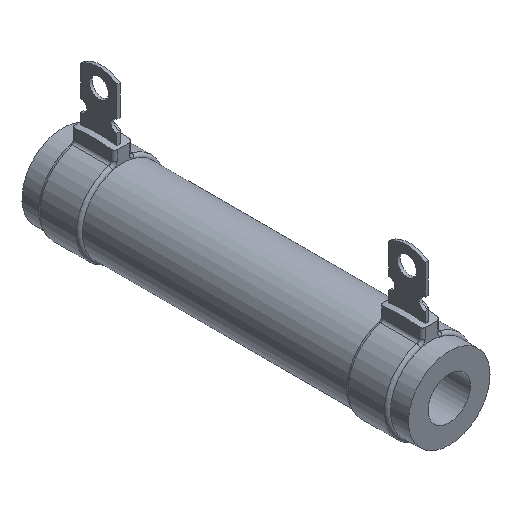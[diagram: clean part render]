
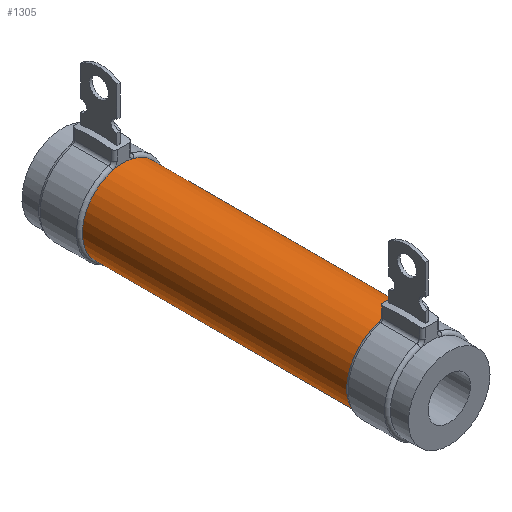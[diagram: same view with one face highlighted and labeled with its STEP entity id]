
A CAD part, isometric view. The second image highlights one B-rep face of the part: STEP entity #1305.
In plain terms, the highlighted cylindrical face has radius 6.75 mm (diameter 13.5 mm), a full revolution.
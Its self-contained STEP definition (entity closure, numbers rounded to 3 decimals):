
#50=CYLINDRICAL_SURFACE($,#1437,6.75);
#71=FACE_BOUND($,#213,.T.);
#129=FACE_OUTER_BOUND($,#212,.T.);
#212=EDGE_LOOP($,(#1016,#1017));
#213=EDGE_LOOP($,(#1018,#1019));
#469=CIRCLE($,#1422,6.75);
#473=CIRCLE($,#1436,6.75);
#474=CIRCLE($,#1438,6.75);
#475=CIRCLE($,#1439,6.75);
#564=VERTEX_POINT($,#2089);
#573=VERTEX_POINT($,#2123);
#580=VERTEX_POINT($,#2182);
#581=VERTEX_POINT($,#2183);
#717=EDGE_CURVE($,#564,#573,#469,.T.);
#733=EDGE_CURVE($,#573,#564,#473,.T.);
#734=EDGE_CURVE($,#580,#581,#474,.T.);
#735=EDGE_CURVE($,#581,#580,#475,.T.);
#1016=ORIENTED_EDGE($,*,*,#734,.T.);
#1017=ORIENTED_EDGE($,*,*,#735,.T.);
#1018=ORIENTED_EDGE($,*,*,#717,.T.);
#1019=ORIENTED_EDGE($,*,*,#733,.T.);
#1305=ADVANCED_FACE($,(#129,#71),#50,.T.);
#1422=AXIS2_PLACEMENT_3D($,#2132,#1720,#1721);
#1436=AXIS2_PLACEMENT_3D($,#2180,#1758,#1759);
#1437=AXIS2_PLACEMENT_3D($,#2181,#1760,#1761);
#1438=AXIS2_PLACEMENT_3D($,#2184,#1762,#1763);
#1439=AXIS2_PLACEMENT_3D($,#2185,#1764,#1765);
#1720=DIRECTION('center_axis',(0.,-1.,0.));
#1721=DIRECTION('ref_axis',(-1.,0.,0.));
#1758=DIRECTION('center_axis',(0.,-1.,0.));
#1759=DIRECTION('ref_axis',(-1.,0.,0.));
#1760=DIRECTION('center_axis',(0.,-1.,0.));
#1761=DIRECTION('ref_axis',(-1.,0.,0.));
#1762=DIRECTION('center_axis',(0.,1.,0.));
#1763=DIRECTION('ref_axis',(-1.,0.,0.));
#1764=DIRECTION('center_axis',(0.,1.,0.));
#1765=DIRECTION('ref_axis',(-1.,0.,0.));
#2089=CARTESIAN_POINT('',(-1.742,54.,6.521));
#2123=CARTESIAN_POINT('',(1.742,54.,6.521));
#2132=CARTESIAN_POINT('Origin',(0.,54.,0.));
#2180=CARTESIAN_POINT('Origin',(0.,54.,0.));
#2181=CARTESIAN_POINT('Origin',(0.,32.,0.));
#2182=CARTESIAN_POINT('',(1.742,10.,6.521));
#2183=CARTESIAN_POINT('',(-1.742,10.,6.521));
#2184=CARTESIAN_POINT('Origin',(0.,10.,0.));
#2185=CARTESIAN_POINT('Origin',(0.,10.,0.));
